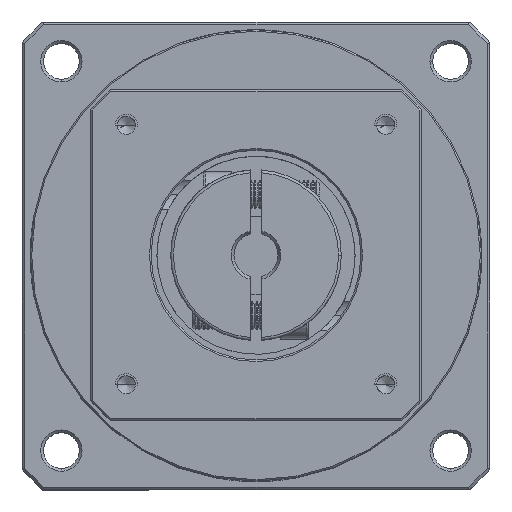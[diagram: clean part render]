
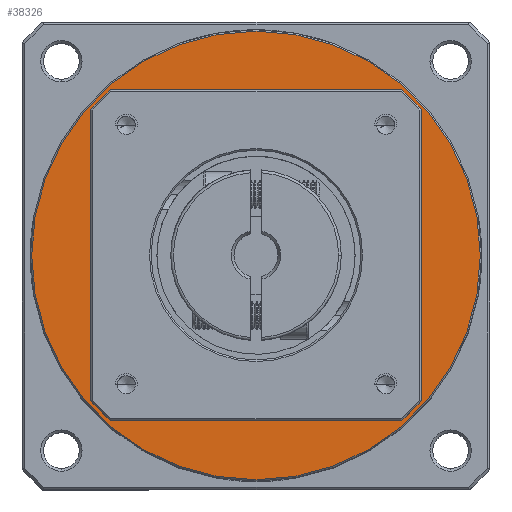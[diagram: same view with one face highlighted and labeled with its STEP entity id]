
A CAD part, top view. The second image highlights one B-rep face of the part: STEP entity #38326.
In plain terms, the highlighted planar face has unit normal (0, 0, 1).
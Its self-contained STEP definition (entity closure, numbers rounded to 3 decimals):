
#832 = AXIS2_PLACEMENT_3D ( 'NONE', #66460, #13778, #75364 ) ;
#1954 = PLANE ( 'NONE',  #8206 ) ;
#5081 = DIRECTION ( 'NONE',  ( 0., 0., -1. ) ) ;
#5344 = DIRECTION ( 'NONE',  ( 0., 1., 0. ) ) ;
#5756 = CARTESIAN_POINT ( 'NONE',  ( -63.009, -20.234, -20.918 ) ) ;
#5778 = CARTESIAN_POINT ( 'NONE',  ( -63.009, 20.516, -20.918 ) ) ;
#6063 = CARTESIAN_POINT ( 'NONE',  ( -63.009, 61.266, -20.918 ) ) ;
#8206 = AXIS2_PLACEMENT_3D ( 'NONE', #37378, #98911, #46233 ) ;
#10268 = VERTEX_POINT ( 'NONE', #5756 ) ;
#13778 = DIRECTION ( 'NONE',  ( 0., 0., -1. ) ) ;
#14631 = DIRECTION ( 'NONE',  ( -1., 0., 0. ) ) ;
#17959 = AXIS2_PLACEMENT_3D ( 'NONE', #5778, #67324, #14631 ) ;
#18131 = ORIENTED_EDGE ( 'NONE', *, *, #102331, .F. ) ;
#19333 = ORIENTED_EDGE ( 'NONE', *, *, #34824, .T. ) ;
#20236 = AXIS2_PLACEMENT_3D ( 'NONE', #110669, #58047, #5344 ) ;
#24559 = CARTESIAN_POINT ( 'NONE',  ( -33.009, 20.516, -20.918 ) ) ;
#34824 = EDGE_CURVE ( 'NONE', #110461, #39324, #85055, .T. ) ;
#37378 = CARTESIAN_POINT ( 'NONE',  ( -63.009, 20.516, -20.918 ) ) ;
#38109 = AXIS2_PLACEMENT_3D ( 'NONE', #57774, #5081, #66602 ) ;
#38326 = ADVANCED_FACE ( 'NONE', ( #65607, #42214 ), #1954, .T. ) ;
#39324 = VERTEX_POINT ( 'NONE', #94757 ) ;
#42214 = FACE_BOUND ( 'NONE', #84193, .T. ) ;
#43083 = CIRCLE ( 'NONE', #832, 40.75 ) ;
#46233 = DIRECTION ( 'NONE',  ( 1., 0., 0. ) ) ;
#55618 = CIRCLE ( 'NONE', #20236, 40.75 ) ;
#57774 = CARTESIAN_POINT ( 'NONE',  ( -63.009, 20.516, -20.918 ) ) ;
#58047 = DIRECTION ( 'NONE',  ( 0., 0., -1. ) ) ;
#59800 = CIRCLE ( 'NONE', #17959, 30. ) ;
#65607 = FACE_OUTER_BOUND ( 'NONE', #73783, .T. ) ;
#66460 = CARTESIAN_POINT ( 'NONE',  ( -63.009, 20.516, -20.918 ) ) ;
#66602 = DIRECTION ( 'NONE',  ( -1., 0., 0. ) ) ;
#67324 = DIRECTION ( 'NONE',  ( 0., 0., -1. ) ) ;
#73783 = EDGE_LOOP ( 'NONE', ( #18131, #97150 ) ) ;
#75364 = DIRECTION ( 'NONE',  ( 0., 1., 0. ) ) ;
#78167 = VERTEX_POINT ( 'NONE', #6063 ) ;
#79399 = EDGE_CURVE ( 'NONE', #10268, #78167, #55618, .T. ) ;
#84193 = EDGE_LOOP ( 'NONE', ( #98405, #19333 ) ) ;
#85055 = CIRCLE ( 'NONE', #38109, 30. ) ;
#91044 = EDGE_CURVE ( 'NONE', #39324, #110461, #59800, .T. ) ;
#94757 = CARTESIAN_POINT ( 'NONE',  ( -93.009, 20.516, -20.918 ) ) ;
#97150 = ORIENTED_EDGE ( 'NONE', *, *, #79399, .F. ) ;
#98405 = ORIENTED_EDGE ( 'NONE', *, *, #91044, .T. ) ;
#98911 = DIRECTION ( 'NONE',  ( 0., 0., 1. ) ) ;
#102331 = EDGE_CURVE ( 'NONE', #78167, #10268, #43083, .T. ) ;
#110461 = VERTEX_POINT ( 'NONE', #24559 ) ;
#110669 = CARTESIAN_POINT ( 'NONE',  ( -63.009, 20.516, -20.918 ) ) ;
